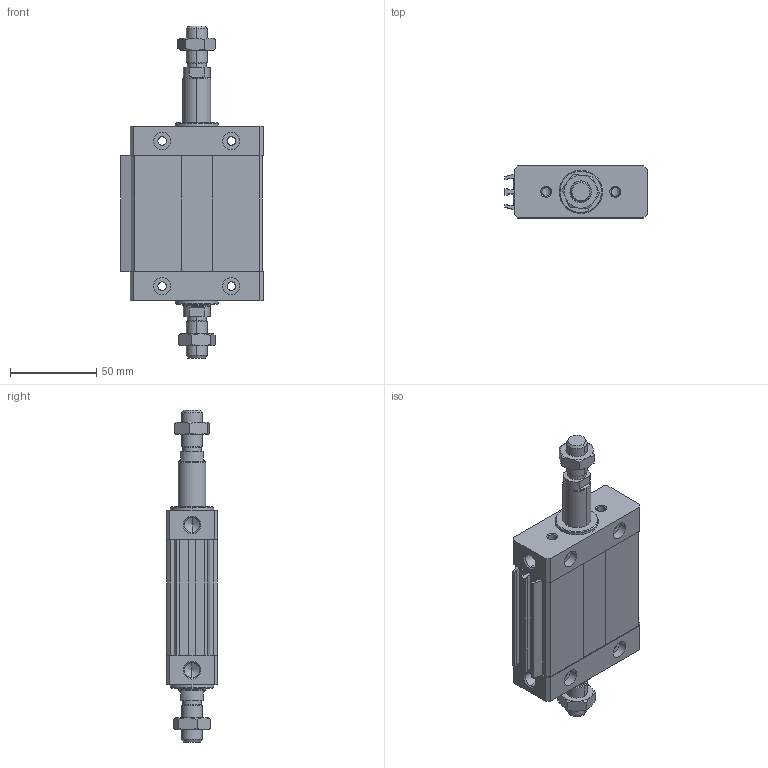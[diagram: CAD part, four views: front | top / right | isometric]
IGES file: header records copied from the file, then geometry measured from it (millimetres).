
Global section: file name: No Iges File Name specified; native system: Autodesk Inventor 2011; preprocessor: AutoDesk Inventor Iges Exporter R2011; author: airolcr1; date: 20101213.153117; units: millimetre
Bounding box: 82.5 x 30 x 192 mm (x, y, z)
Volume: 212169.9 mm3; surface area: 69997.9 mm2
Topology: 6 solids, 6 shells, 276 faces, 652 edges, 396 vertices
Faces by surface type: bspline 110, plane 98, cone 36, cylinder 18, revolution 14
